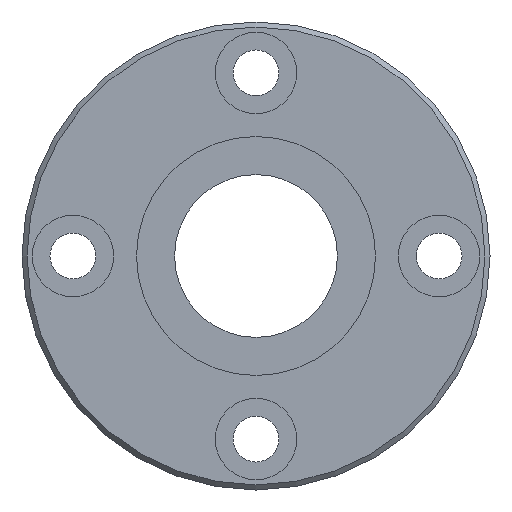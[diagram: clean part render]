
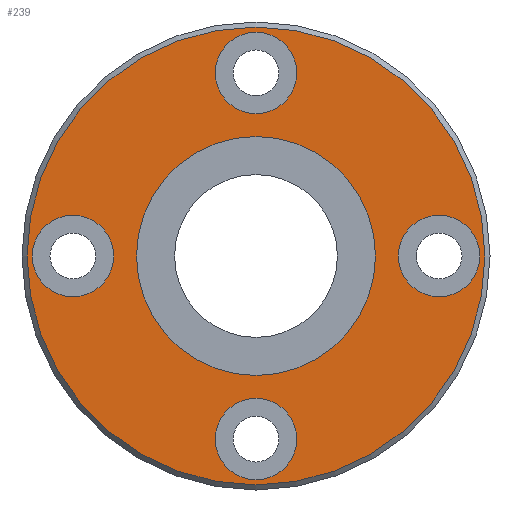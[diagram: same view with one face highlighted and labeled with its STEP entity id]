
A CAD part, left-side view. The second image highlights one B-rep face of the part: STEP entity #239.
In plain terms, the highlighted planar face has unit normal (-1, 0, 0).
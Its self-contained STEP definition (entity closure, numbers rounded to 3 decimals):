
#164=CARTESIAN_POINT('',(0.,0.,22.5));
#165=VERTEX_POINT('',#164);
#166=CARTESIAN_POINT('',(0.,0.0,0.0));
#167=DIRECTION('',(1.0,0.0,0.0));
#168=DIRECTION('',(0.0,0.0,-1.0));
#169=AXIS2_PLACEMENT_3D('',#166,#167,#168);
#170=CIRCLE('',#169,22.5);
#171=EDGE_CURVE('',#165,#165,#170,.T.);
#176=CARTESIAN_POINT('',(0.,0.0,12.375));
#177=DIRECTION('',(-1.0,0.0,0.0));
#178=DIRECTION('',(0.0,0.0,1.0));
#179=AXIS2_PLACEMENT_3D('',#176,#177,#178);
#180=PLANE('',#179);
#181=ORIENTED_EDGE('',*,*,#171,.F.);
#182=EDGE_LOOP('',(#181));
#183=FACE_OUTER_BOUND('',#182,.T.);
#184=CARTESIAN_POINT('',(0.,0.0,11.75));
#185=VERTEX_POINT('',#184);
#186=CARTESIAN_POINT('',(0.,0.0,0.0));
#187=DIRECTION('',(-1.0,0.0,0.0));
#188=DIRECTION('',(0.0,0.0,1.0));
#189=AXIS2_PLACEMENT_3D('',#186,#187,#188);
#190=CIRCLE('',#189,11.75);
#191=EDGE_CURVE('',#185,#185,#190,.T.);
#192=ORIENTED_EDGE('',*,*,#191,.F.);
#193=EDGE_LOOP('',(#192));
#194=FACE_BOUND('',#193,.T.);
#195=CARTESIAN_POINT('',(0.0,22.0,0.));
#196=VERTEX_POINT('',#195);
#197=CARTESIAN_POINT('',(0.,18.0,0.));
#198=DIRECTION('',(1.0,0.0,0.0));
#199=DIRECTION('',(0.0,1.0,0.0));
#200=AXIS2_PLACEMENT_3D('',#197,#198,#199);
#201=CIRCLE('',#200,4.0);
#202=EDGE_CURVE('',#196,#196,#201,.T.);
#203=ORIENTED_EDGE('',*,*,#202,.T.);
#204=EDGE_LOOP('',(#203));
#205=FACE_BOUND('',#204,.T.);
#206=CARTESIAN_POINT('',(0.0,-14.,0.));
#207=VERTEX_POINT('',#206);
#208=CARTESIAN_POINT('',(0.,-18.0,0.));
#209=DIRECTION('',(1.0,0.0,0.0));
#210=DIRECTION('',(0.0,1.0,0.0));
#211=AXIS2_PLACEMENT_3D('',#208,#209,#210);
#212=CIRCLE('',#211,4.0);
#213=EDGE_CURVE('',#207,#207,#212,.T.);
#214=ORIENTED_EDGE('',*,*,#213,.T.);
#215=EDGE_LOOP('',(#214));
#216=FACE_BOUND('',#215,.T.);
#217=CARTESIAN_POINT('',(0.0,4.,18.0));
#218=VERTEX_POINT('',#217);
#219=CARTESIAN_POINT('',(0.,0.,18.0));
#220=DIRECTION('',(1.0,0.0,0.0));
#221=DIRECTION('',(0.0,1.0,0.0));
#222=AXIS2_PLACEMENT_3D('',#219,#220,#221);
#223=CIRCLE('',#222,4.0);
#224=EDGE_CURVE('',#218,#218,#223,.T.);
#225=ORIENTED_EDGE('',*,*,#224,.T.);
#226=EDGE_LOOP('',(#225));
#227=FACE_BOUND('',#226,.T.);
#228=CARTESIAN_POINT('',(0.0,4.,-18.0));
#229=VERTEX_POINT('',#228);
#230=CARTESIAN_POINT('',(0.,0.,-18.0));
#231=DIRECTION('',(1.0,0.0,0.0));
#232=DIRECTION('',(0.0,1.0,0.0));
#233=AXIS2_PLACEMENT_3D('',#230,#231,#232);
#234=CIRCLE('',#233,4.0);
#235=EDGE_CURVE('',#229,#229,#234,.T.);
#236=ORIENTED_EDGE('',*,*,#235,.T.);
#237=EDGE_LOOP('',(#236));
#238=FACE_BOUND('',#237,.T.);
#239=ADVANCED_FACE('',(#183,#194,#205,#216,#227,#238),#180,.T.);
